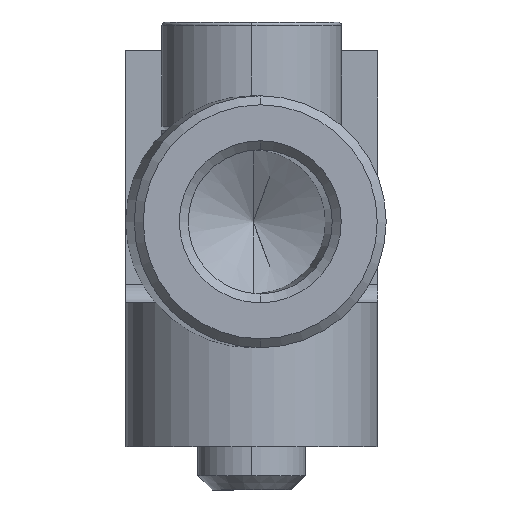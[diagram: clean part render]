
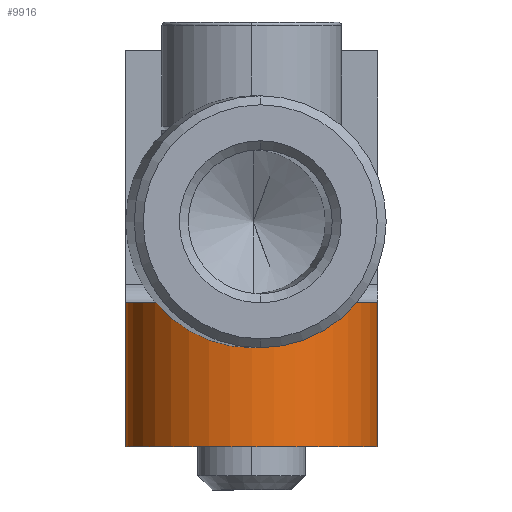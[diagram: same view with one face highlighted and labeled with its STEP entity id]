
A CAD part, front view. The second image highlights one B-rep face of the part: STEP entity #9916.
In plain terms, the highlighted cylindrical face has radius 7 mm (diameter 14 mm), a partial arc.
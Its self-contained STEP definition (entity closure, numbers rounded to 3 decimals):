
#736 = AXIS2_PLACEMENT_3D ( 'NONE', #6531, #1874, #7328 ) ;
#769 = CARTESIAN_POINT ( 'NONE',  ( 1.483, 14.19, 0. ) ) ;
#901 = LINE ( 'NONE', #6721, #8922 ) ;
#1018 = VERTEX_POINT ( 'NONE', #3816 ) ;
#1087 = AXIS2_PLACEMENT_3D ( 'NONE', #9093, #5944, #2116 ) ;
#1701 = VERTEX_POINT ( 'NONE', #3223 ) ;
#1874 = DIRECTION ( 'NONE',  ( 0., 0., -1. ) ) ;
#2066 = EDGE_LOOP ( 'NONE', ( #5542, #5337, #5655, #5728 ) ) ;
#2116 = DIRECTION ( 'NONE',  ( -1., 0., 0. ) ) ;
#2693 = EDGE_CURVE ( 'NONE', #1018, #5096, #3076, .T. ) ;
#3076 = CIRCLE ( 'NONE', #4574, 7. ) ;
#3123 = EDGE_CURVE ( 'NONE', #10045, #1018, #901, .T. ) ;
#3223 = CARTESIAN_POINT ( 'NONE',  ( 1.483, 14.19, -11. ) ) ;
#3562 = VECTOR ( 'NONE', #9255, 1000. ) ;
#3620 = CARTESIAN_POINT ( 'NONE',  ( 1.483, 14.19, -3. ) ) ;
#3673 = DIRECTION ( 'NONE',  ( 0., 0., 1. ) ) ;
#3816 = CARTESIAN_POINT ( 'NONE',  ( -12.517, 14.19, -3. ) ) ;
#4574 = AXIS2_PLACEMENT_3D ( 'NONE', #9346, #9307, #9303 ) ;
#5096 = VERTEX_POINT ( 'NONE', #3620 ) ;
#5143 = FACE_OUTER_BOUND ( 'NONE', #2066, .T. ) ;
#5337 = ORIENTED_EDGE ( 'NONE', *, *, #3123, .F. ) ;
#5542 = ORIENTED_EDGE ( 'NONE', *, *, #2693, .F. ) ;
#5655 = ORIENTED_EDGE ( 'NONE', *, *, #7839, .F. ) ;
#5728 = ORIENTED_EDGE ( 'NONE', *, *, #6832, .F. ) ;
#5944 = DIRECTION ( 'NONE',  ( 0., 0., -1. ) ) ;
#6113 = CARTESIAN_POINT ( 'NONE',  ( -12.517, 14.19, -11. ) ) ;
#6390 = CYLINDRICAL_SURFACE ( 'NONE', #1087, 7. ) ;
#6531 = CARTESIAN_POINT ( 'NONE',  ( -5.517, 14.19, -11. ) ) ;
#6721 = CARTESIAN_POINT ( 'NONE',  ( -12.517, 14.19, 0. ) ) ;
#6832 = EDGE_CURVE ( 'NONE', #5096, #1701, #9538, .T. ) ;
#7328 = DIRECTION ( 'NONE',  ( -1., 0., 0. ) ) ;
#7834 = CIRCLE ( 'NONE', #736, 7. ) ;
#7839 = EDGE_CURVE ( 'NONE', #1701, #10045, #7834, .T. ) ;
#8922 = VECTOR ( 'NONE', #3673, 1000. ) ;
#9093 = CARTESIAN_POINT ( 'NONE',  ( -5.517, 14.19, -3. ) ) ;
#9255 = DIRECTION ( 'NONE',  ( 0., 0., -1. ) ) ;
#9303 = DIRECTION ( 'NONE',  ( -1., 0., 0. ) ) ;
#9307 = DIRECTION ( 'NONE',  ( 0., 0., 1. ) ) ;
#9346 = CARTESIAN_POINT ( 'NONE',  ( -5.517, 14.19, -3. ) ) ;
#9538 = LINE ( 'NONE', #769, #3562 ) ;
#9916 = ADVANCED_FACE ( 'NONE', ( #5143 ), #6390, .T. ) ;
#10045 = VERTEX_POINT ( 'NONE', #6113 ) ;
